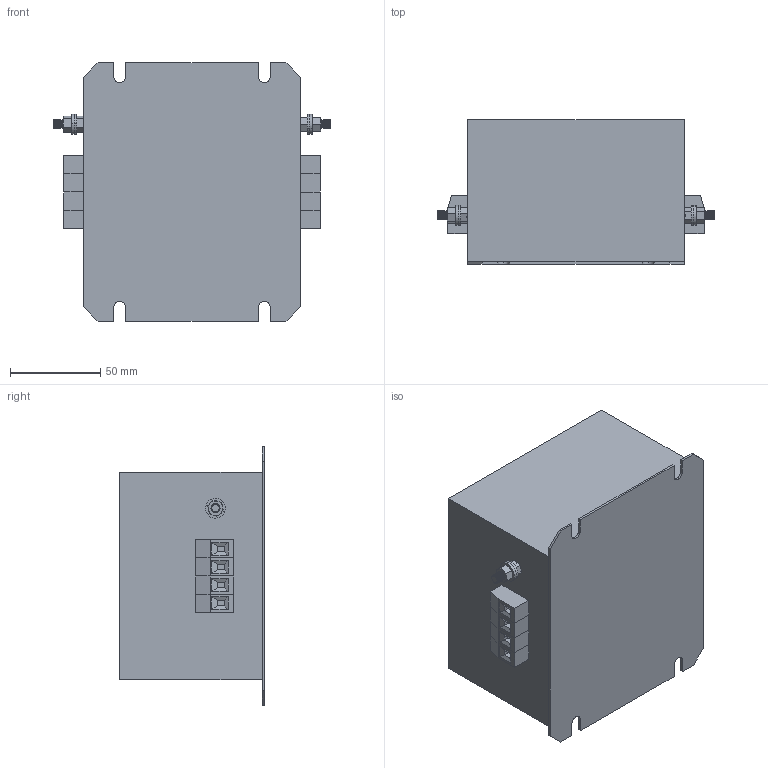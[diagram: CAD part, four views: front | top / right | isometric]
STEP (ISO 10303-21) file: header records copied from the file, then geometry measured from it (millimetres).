
FILE_DESCRIPTION (( 'STEP AP214' ), '1' );
FILE_NAME ('NF-DAR-16-4.STEP', '2019-05-14T10:01:52', ( '' ), ( '' ), 'SwSTEP 2.0', 'SolidWorks 2019', '' );
FILE_SCHEMA (( 'AUTOMOTIVE_DESIGN' ));
Length unit declared in the file: millimetre
Products named in the file (11): flat washer narrow_am_B18.22M - Plain washer, 5 mm, narrow.STEP; M5x13 Earth post.STEP; VDFK4x3.STEP; NF-DAR-16-4; hex nut style 1_am_B18.2.4.1M - Hex nut, Style 1,  M5 x 0.8 --D-N.STEP; VDFK-4.STEP; FNE-4.STEP; hex screw_am_B18.6.7M - M5 x 0.8 x 13 Indented HHMS --13S.STEP; NF-DAR-16-4.STEP
Assembly tree (22 placements, depth 4):
  NF-DAR-16-4
    NF-DAR-16-4.STEP
      M5x13 Earth post.STEP
        hex screw_am_B18.6.7M - M5 x 0.8 x 13 Indented HHMS --13S.STEP
        flat washer narrow_am_B18.22M - Plain washer, 5 mm, narrow.STEP  x2
        hex nut style 1_am_B18.2.4.1M - Hex nut, Style 1,  M5 x 0.8 --D-N.STEP
      M5x13 Earth post.STEP
        hex screw_am_B18.6.7M - M5 x 0.8 x 13 Indented HHMS --13S.STEP
        flat washer narrow_am_B18.22M - Plain washer, 5 mm, narrow.STEP  x2
        hex nut style 1_am_B18.2.4.1M - Hex nut, Style 1,  M5 x 0.8 --D-N.STEP
      VDFK4x3.STEP
        VDFK-4.STEP  x3
      VDFK4x3.STEP
        VDFK-4.STEP  x3
      FNE-4.STEP
      VDFK-4.STEP  x2
Bounding box: 153.6 x 80 x 143 mm (x, y, z)
Volume: 1100943.8 mm3; surface area: 126536.5 mm2
Topology: 18 solids, 18 shells, 656 faces, 1608 edges, 1024 vertices
Faces by surface type: plane 336, cone 176, cylinder 144
Entity records: 7846 total; most frequent: CARTESIAN_POINT 1632, DIRECTION 1335, ORIENTED_EDGE 1170, EDGE_CURVE 585, AXIS2_PLACEMENT_3D 523, VERTEX_POINT 370, LINE 289, VECTOR 289
